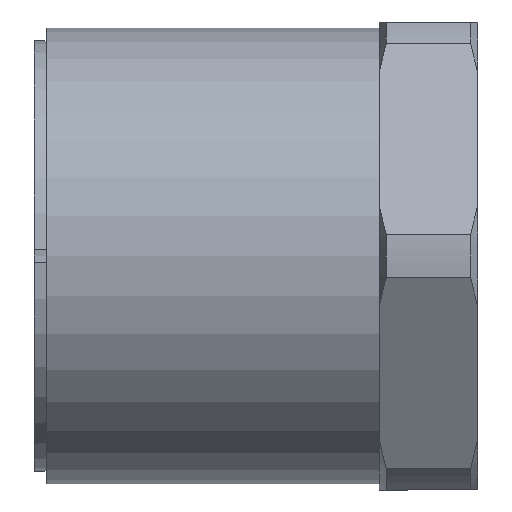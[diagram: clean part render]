
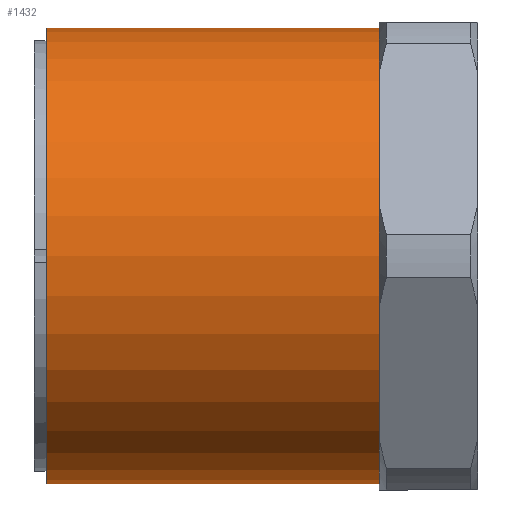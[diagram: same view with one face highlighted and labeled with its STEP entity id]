
A CAD part, front view. The second image highlights one B-rep face of the part: STEP entity #1432.
In plain terms, the highlighted cylindrical face has radius 18.5 mm (diameter 37 mm), a partial arc.
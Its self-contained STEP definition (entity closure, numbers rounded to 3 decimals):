
#239 = DIRECTION ( 'NONE',  ( 0., 0., 1. ) ) ;
#240 = DIRECTION ( 'NONE',  ( -1., 0., 0. ) ) ;
#242 = DIRECTION ( 'NONE',  ( -1., 0., 0. ) ) ;
#243 = CARTESIAN_POINT ( 'NONE',  ( 0., 0., 18.5 ) ) ;
#250 = DIRECTION ( 'NONE',  ( -1., 0., 0. ) ) ;
#251 = CARTESIAN_POINT ( 'NONE',  ( 0., 0., 0. ) ) ;
#256 = CARTESIAN_POINT ( 'NONE',  ( 0., 0., -18.5 ) ) ;
#258 = DIRECTION ( 'NONE',  ( 0., 0., 1. ) ) ;
#259 = DIRECTION ( 'NONE',  ( -1., 0., 0. ) ) ;
#267 = CARTESIAN_POINT ( 'NONE',  ( 27., 0., 0. ) ) ;
#304 = CARTESIAN_POINT ( 'NONE',  ( 0., 0., 18.5 ) ) ;
#333 = CARTESIAN_POINT ( 'NONE',  ( 27., 0., 18.5 ) ) ;
#337 = CARTESIAN_POINT ( 'NONE',  ( 27., 0., -18.5 ) ) ;
#362 = CARTESIAN_POINT ( 'NONE',  ( 0., 0., -18.5 ) ) ;
#471 = VERTEX_POINT ( 'NONE', #362 ) ;
#501 = VERTEX_POINT ( 'NONE', #337 ) ;
#506 = VERTEX_POINT ( 'NONE', #333 ) ;
#535 = VERTEX_POINT ( 'NONE', #304 ) ;
#604 = CIRCLE ( 'NONE', #732, 18.5 ) ;
#606 = VECTOR ( 'NONE', #242, 1000. ) ;
#607 = LINE ( 'NONE', #243, #606 ) ;
#614 = LINE ( 'NONE', #256, #621 ) ;
#617 = CIRCLE ( 'NONE', #896, 18.5 ) ;
#621 = VECTOR ( 'NONE', #250, 1000. ) ;
#683 = AXIS2_PLACEMENT_3D ( 'NONE', #975, #1548, #1536 ) ;
#732 = AXIS2_PLACEMENT_3D ( 'NONE', #251, #240, #239 ) ;
#769 = EDGE_CURVE ( 'NONE', #501, #506, #617, .T. ) ;
#772 = EDGE_CURVE ( 'NONE', #501, #471, #614, .T. ) ;
#775 = EDGE_CURVE ( 'NONE', #506, #535, #607, .T. ) ;
#776 = EDGE_CURVE ( 'NONE', #471, #535, #604, .T. ) ;
#896 = AXIS2_PLACEMENT_3D ( 'NONE', #267, #259, #258 ) ;
#975 = CARTESIAN_POINT ( 'NONE',  ( 0., 0., 0. ) ) ;
#1048 = FACE_OUTER_BOUND ( 'NONE', #1280, .T. ) ;
#1182 = ORIENTED_EDGE ( 'NONE', *, *, #772, .F. ) ;
#1183 = ORIENTED_EDGE ( 'NONE', *, *, #769, .T. ) ;
#1184 = ORIENTED_EDGE ( 'NONE', *, *, #775, .T. ) ;
#1185 = ORIENTED_EDGE ( 'NONE', *, *, #776, .F. ) ;
#1280 = EDGE_LOOP ( 'NONE', ( #1182, #1183, #1184, #1185 ) ) ;
#1432 = ADVANCED_FACE ( 'NONE', ( #1048 ), #1470, .T. ) ;
#1470 = CYLINDRICAL_SURFACE ( 'NONE', #683, 18.5 ) ;
#1536 = DIRECTION ( 'NONE',  ( 0., 0., 1. ) ) ;
#1548 = DIRECTION ( 'NONE',  ( -1., 0., 0. ) ) ;
